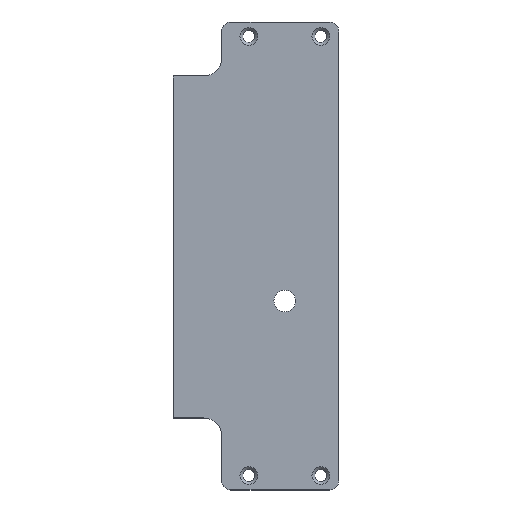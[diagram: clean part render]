
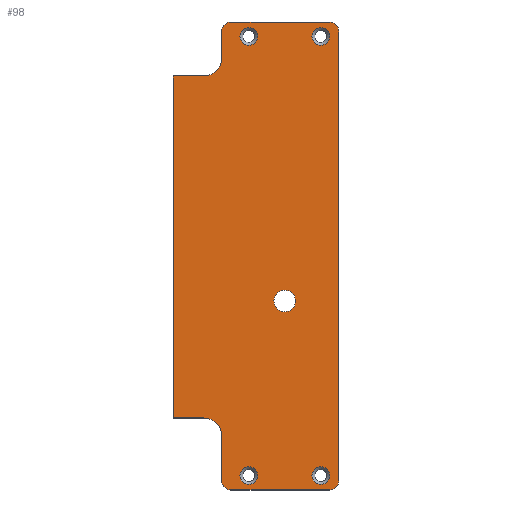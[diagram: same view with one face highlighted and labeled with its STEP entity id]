
A CAD part, top view. The second image highlights one B-rep face of the part: STEP entity #98.
In plain terms, the highlighted planar face has unit normal (0, 0, 1).
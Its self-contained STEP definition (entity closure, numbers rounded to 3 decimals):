
#98=ADVANCED_FACE('',(#536,#538,#540,#542,#544,#546),#548,.T.);
#536=FACE_BOUND('',#537,.T.);
#537=EDGE_LOOP('',(#946,#947,#948,#949,#950,#951,#952,#953,#954,#955,#956,#957,#958,
#959));
#538=FACE_BOUND('',#539,.T.);
#539=EDGE_LOOP('',(#960));
#540=FACE_BOUND('',#541,.T.);
#541=EDGE_LOOP('',(#961));
#542=FACE_BOUND('',#543,.T.);
#543=EDGE_LOOP('',(#962));
#544=FACE_BOUND('',#545,.T.);
#545=EDGE_LOOP('',(#963));
#546=FACE_BOUND('',#547,.T.);
#547=EDGE_LOOP('',(#964));
#548=PLANE('',#549);
#549=AXIS2_PLACEMENT_3D('',#550,#551,#552);
#550=CARTESIAN_POINT('',(0.,0.,12.));
#551=DIRECTION('',(0.,0.,1.));
#552=DIRECTION('',(-1.,0.,0.));
#946=ORIENTED_EDGE('',*,*,#1106,.F.);
#947=ORIENTED_EDGE('',*,*,#1100,.T.);
#948=ORIENTED_EDGE('',*,*,#1125,.F.);
#949=ORIENTED_EDGE('',*,*,#1126,.T.);
#950=ORIENTED_EDGE('',*,*,#1127,.T.);
#951=ORIENTED_EDGE('',*,*,#1128,.T.);
#952=ORIENTED_EDGE('',*,*,#1129,.T.);
#953=ORIENTED_EDGE('',*,*,#1130,.T.);
#954=ORIENTED_EDGE('',*,*,#1131,.T.);
#955=ORIENTED_EDGE('',*,*,#1132,.T.);
#956=ORIENTED_EDGE('',*,*,#1133,.F.);
#957=ORIENTED_EDGE('',*,*,#1134,.T.);
#958=ORIENTED_EDGE('',*,*,#1135,.F.);
#959=ORIENTED_EDGE('',*,*,#1136,.T.);
#960=ORIENTED_EDGE('',*,*,#1137,.T.);
#961=ORIENTED_EDGE('',*,*,#1138,.T.);
#962=ORIENTED_EDGE('',*,*,#1139,.T.);
#963=ORIENTED_EDGE('',*,*,#1140,.T.);
#964=ORIENTED_EDGE('',*,*,#1141,.T.);
#1100=EDGE_CURVE('',#1191,#1195,#1197,.T.);
#1106=EDGE_CURVE('',#1191,#1205,#1208,.F.);
#1125=EDGE_CURVE('',#1242,#1195,#1244,.F.);
#1126=EDGE_CURVE('',#1242,#1245,#1246,.F.);
#1127=EDGE_CURVE('',#1245,#1247,#1248,.T.);
#1128=EDGE_CURVE('',#1247,#1249,#1250,.F.);
#1129=EDGE_CURVE('',#1249,#1251,#1252,.T.);
#1130=EDGE_CURVE('',#1251,#1253,#1254,.F.);
#1131=EDGE_CURVE('',#1253,#1255,#1256,.T.);
#1132=EDGE_CURVE('',#1255,#1257,#1258,.F.);
#1133=EDGE_CURVE('',#1259,#1257,#1260,.F.);
#1134=EDGE_CURVE('',#1259,#1261,#1262,.T.);
#1135=EDGE_CURVE('',#1263,#1261,#1264,.F.);
#1136=EDGE_CURVE('',#1263,#1205,#1265,.T.);
#1137=EDGE_CURVE('',#1266,#1266,#1267,.T.);
#1138=EDGE_CURVE('',#1268,#1268,#1269,.T.);
#1139=EDGE_CURVE('',#1270,#1270,#1271,.F.);
#1140=EDGE_CURVE('',#1272,#1272,#1273,.T.);
#1141=EDGE_CURVE('',#1274,#1274,#1275,.T.);
#1191=VERTEX_POINT('',#1358);
#1195=VERTEX_POINT('',#1366);
#1197=LINE('',#1370,#1371);
#1205=VERTEX_POINT('',#1389);
#1208=CIRCLE('',#1397,5.);
#1242=VERTEX_POINT('',#1478);
#1244=CIRCLE('',#1482,5.);
#1245=VERTEX_POINT('',#1486);
#1246=LINE('',#1487,#1488);
#1247=VERTEX_POINT('',#1490);
#1248=CIRCLE('',#1491,10.);
#1249=VERTEX_POINT('',#1495);
#1250=LINE('',#1496,#1497);
#1251=VERTEX_POINT('',#1499);
#1252=LINE('',#1500,#1501);
#1253=VERTEX_POINT('',#1503);
#1254=LINE('',#1504,#1505);
#1255=VERTEX_POINT('',#1507);
#1256=CIRCLE('',#1508,10.);
#1257=VERTEX_POINT('',#1512);
#1258=LINE('',#1513,#1514);
#1259=VERTEX_POINT('',#1516);
#1260=CIRCLE('',#1517,5.);
#1261=VERTEX_POINT('',#1521);
#1262=LINE('',#1522,#1523);
#1263=VERTEX_POINT('',#1525);
#1264=CIRCLE('',#1526,5.);
#1265=LINE('',#1530,#1531);
#1266=VERTEX_POINT('',#1533);
#1267=CIRCLE('',#1534,4.923);
#1268=VERTEX_POINT('',#1538);
#1269=CIRCLE('',#1539,4.923);
#1270=VERTEX_POINT('',#1543);
#1271=CIRCLE('',#1544,6.);
#1272=VERTEX_POINT('',#1548);
#1273=CIRCLE('',#1549,4.923);
#1274=VERTEX_POINT('',#1553);
#1275=CIRCLE('',#1554,4.923);
#1358=CARTESIAN_POINT('',(12.,25.,12.));
#1366=CARTESIAN_POINT('',(-43.,25.,12.));
#1370=CARTESIAN_POINT('',(12.,25.,12.));
#1371=VECTOR('',#1372,1.);
#1372=DIRECTION('',(-1.,0.,0.));
#1389=CARTESIAN_POINT('',(17.,20.,12.));
#1397=AXIS2_PLACEMENT_3D('',#1398,#1399,#1400);
#1398=CARTESIAN_POINT('',(12.,20.,12.));
#1399=DIRECTION('',(0.,0.,1.));
#1400=DIRECTION('',(1.,0.,0.));
#1478=CARTESIAN_POINT('',(-48.,20.,12.));
#1482=AXIS2_PLACEMENT_3D('',#1483,#1484,#1485);
#1483=CARTESIAN_POINT('',(-43.,20.,12.));
#1484=DIRECTION('',(0.,0.,1.));
#1485=DIRECTION('',(0.,1.,0.));
#1486=CARTESIAN_POINT('',(-48.,5.,12.));
#1487=CARTESIAN_POINT('',(-48.,5.,12.));
#1488=VECTOR('',#1489,1.);
#1489=DIRECTION('',(0.,1.,0.));
#1490=CARTESIAN_POINT('',(-58.,-5.,12.));
#1491=AXIS2_PLACEMENT_3D('',#1492,#1493,#1494);
#1492=CARTESIAN_POINT('',(-58.,5.,12.));
#1493=DIRECTION('',(0.,0.,-1.));
#1494=DIRECTION('',(1.,0.,0.));
#1495=CARTESIAN_POINT('',(-75.,-5.,12.));
#1496=CARTESIAN_POINT('',(-75.,-5.,12.));
#1497=VECTOR('',#1498,1.);
#1498=DIRECTION('',(1.,0.,0.));
#1499=CARTESIAN_POINT('',(-75.,-195.,12.));
#1500=CARTESIAN_POINT('',(-75.,-5.,12.));
#1501=VECTOR('',#1502,1.);
#1502=DIRECTION('',(0.,-1.,0.));
#1503=CARTESIAN_POINT('',(-58.,-195.,12.));
#1504=CARTESIAN_POINT('',(-58.,-195.,12.));
#1505=VECTOR('',#1506,1.);
#1506=DIRECTION('',(-1.,0.,0.));
#1507=CARTESIAN_POINT('',(-48.,-205.,12.));
#1508=AXIS2_PLACEMENT_3D('',#1509,#1510,#1511);
#1509=CARTESIAN_POINT('',(-58.,-205.,12.));
#1510=DIRECTION('',(0.,0.,-1.));
#1511=DIRECTION('',(0.,1.,0.));
#1512=CARTESIAN_POINT('',(-48.,-230.,12.));
#1513=CARTESIAN_POINT('',(-48.,-230.,12.));
#1514=VECTOR('',#1515,1.);
#1515=DIRECTION('',(0.,1.,0.));
#1516=CARTESIAN_POINT('',(-43.,-235.,12.));
#1517=AXIS2_PLACEMENT_3D('',#1518,#1519,#1520);
#1518=CARTESIAN_POINT('',(-43.,-230.,12.));
#1519=DIRECTION('',(0.,0.,1.));
#1520=DIRECTION('',(-1.,0.,0.));
#1521=CARTESIAN_POINT('',(12.,-235.,12.));
#1522=CARTESIAN_POINT('',(-43.,-235.,12.));
#1523=VECTOR('',#1524,1.);
#1524=DIRECTION('',(1.,0.,0.));
#1525=CARTESIAN_POINT('',(17.,-230.,12.));
#1526=AXIS2_PLACEMENT_3D('',#1527,#1528,#1529);
#1527=CARTESIAN_POINT('',(12.,-230.,12.));
#1528=DIRECTION('',(0.,0.,1.));
#1529=DIRECTION('',(0.,-1.,0.));
#1530=CARTESIAN_POINT('',(17.,-230.,12.));
#1531=VECTOR('',#1532,1.);
#1532=DIRECTION('',(0.,1.,0.));
#1533=CARTESIAN_POINT('',(-33.,-231.923,12.));
#1534=AXIS2_PLACEMENT_3D('',#1535,#1536,#1537);
#1535=CARTESIAN_POINT('',(-33.,-227.,12.));
#1536=DIRECTION('',(0.,0.,-1.));
#1537=DIRECTION('',(0.,-1.,0.));
#1538=CARTESIAN_POINT('',(7.,12.077,12.));
#1539=AXIS2_PLACEMENT_3D('',#1540,#1541,#1542);
#1540=CARTESIAN_POINT('',(7.,17.,12.));
#1541=DIRECTION('',(0.,0.,-1.));
#1542=DIRECTION('',(0.,-1.,0.));
#1543=CARTESIAN_POINT('',(-19.,-130.,12.));
#1544=AXIS2_PLACEMENT_3D('',#1545,#1546,#1547);
#1545=CARTESIAN_POINT('',(-13.,-130.,12.));
#1546=DIRECTION('',(0.,0.,1.));
#1547=DIRECTION('',(-1.,0.,0.));
#1548=CARTESIAN_POINT('',(7.,-222.077,12.));
#1549=AXIS2_PLACEMENT_3D('',#1550,#1551,#1552);
#1550=CARTESIAN_POINT('',(7.,-227.,12.));
#1551=DIRECTION('',(0.,0.,-1.));
#1552=DIRECTION('',(0.,1.,0.));
#1553=CARTESIAN_POINT('',(-33.,12.077,12.));
#1554=AXIS2_PLACEMENT_3D('',#1555,#1556,#1557);
#1555=CARTESIAN_POINT('',(-33.,17.,12.));
#1556=DIRECTION('',(0.,0.,-1.));
#1557=DIRECTION('',(0.,-1.,0.));
